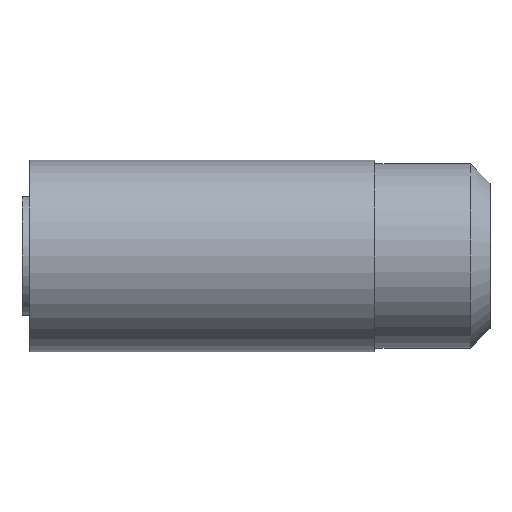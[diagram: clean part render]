
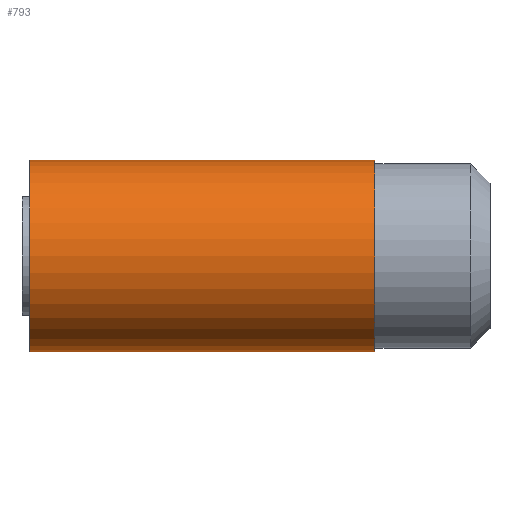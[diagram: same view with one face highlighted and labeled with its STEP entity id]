
A CAD part, left-side view. The second image highlights one B-rep face of the part: STEP entity #793.
In plain terms, the highlighted cylindrical face has radius 2.5 mm (diameter 5 mm), a full revolution.
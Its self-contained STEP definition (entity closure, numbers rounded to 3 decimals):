
#249 = AXIS2_PLACEMENT_3D ( 'NONE', #1402, #2610, #3493 ) ;
#295 = CIRCLE ( 'NONE', #2995, 2.5 ) ;
#620 = DIRECTION ( 'NONE',  ( 1., 0., 0. ) ) ;
#669 = AXIS2_PLACEMENT_3D ( 'NONE', #3275, #2985, #926 ) ;
#793 = ADVANCED_FACE ( 'NONE', ( #1167, #2765 ), #3422, .T. ) ;
#817 = EDGE_LOOP ( 'NONE', ( #965 ) ) ;
#893 = CARTESIAN_POINT ( 'NONE',  ( 0., 3., 0. ) ) ;
#926 = DIRECTION ( 'NONE',  ( 1., 0., 0. ) ) ;
#965 = ORIENTED_EDGE ( 'NONE', *, *, #1317, .F. ) ;
#1167 = FACE_OUTER_BOUND ( 'NONE', #817, .T. ) ;
#1311 = VERTEX_POINT ( 'NONE', #1820 ) ;
#1317 = EDGE_CURVE ( 'NONE', #1311, #1311, #295, .T. ) ;
#1402 = CARTESIAN_POINT ( 'NONE',  ( 0., 12., 0. ) ) ;
#1663 = EDGE_LOOP ( 'NONE', ( #3533 ) ) ;
#1820 = CARTESIAN_POINT ( 'NONE',  ( 2.5, 3., 0. ) ) ;
#2610 = DIRECTION ( 'NONE',  ( 0., -1., 0. ) ) ;
#2765 = FACE_OUTER_BOUND ( 'NONE', #1663, .T. ) ;
#2985 = DIRECTION ( 'NONE',  ( 0., -1., 0. ) ) ;
#2995 = AXIS2_PLACEMENT_3D ( 'NONE', #893, #3297, #620 ) ;
#3068 = EDGE_CURVE ( 'NONE', #3487, #3487, #3156, .T. ) ;
#3156 = CIRCLE ( 'NONE', #249, 2.5 ) ;
#3275 = CARTESIAN_POINT ( 'NONE',  ( 0., 4., 0. ) ) ;
#3297 = DIRECTION ( 'NONE',  ( 0., -1., 0. ) ) ;
#3422 = CYLINDRICAL_SURFACE ( 'NONE', #669, 2.5 ) ;
#3487 = VERTEX_POINT ( 'NONE', #3653 ) ;
#3493 = DIRECTION ( 'NONE',  ( 1., 0., 0. ) ) ;
#3533 = ORIENTED_EDGE ( 'NONE', *, *, #3068, .T. ) ;
#3653 = CARTESIAN_POINT ( 'NONE',  ( 2.5, 12., 0. ) ) ;
